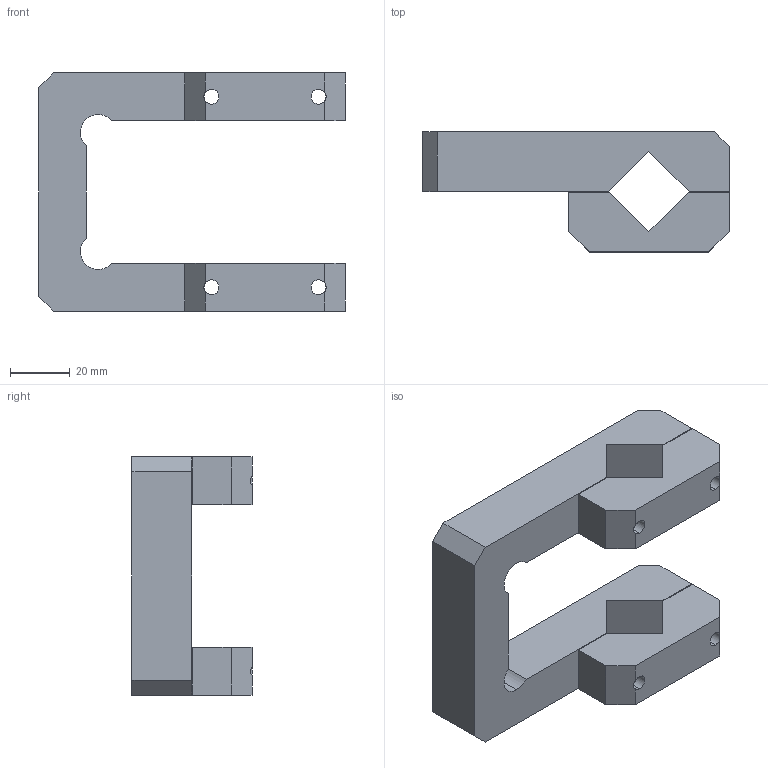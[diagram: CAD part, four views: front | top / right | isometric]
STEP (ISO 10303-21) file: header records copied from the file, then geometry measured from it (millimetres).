
FILE_DESCRIPTION (( 'STEP AP203' ), '1' );
FILE_NAME ('BC-50-MC.STEP', '2017-02-15T11:50:10', ( '' ), ( '' ), 'SwSTEP 2.0', 'SolidWorks 2012', '' );
FILE_SCHEMA (( 'CONFIG_CONTROL_DESIGN' ));
Length unit declared in the file: millimetre
Products named in the file (1): BC-50-MC
Bounding box: 103 x 40.3 x 80 mm (x, y, z)
Volume: 94720.9 mm3; surface area: 29436.7 mm2
Topology: 3 solids, 3 shells, 74 faces, 210 edges, 140 vertices
Faces by surface type: plane 46, cylinder 28
Entity records: 2521 total; most frequent: CARTESIAN_POINT 443, ORIENTED_EDGE 420, DIRECTION 416, EDGE_CURVE 210, VECTOR 142, LINE 142, VERTEX_POINT 140, AXIS2_PLACEMENT_3D 137
